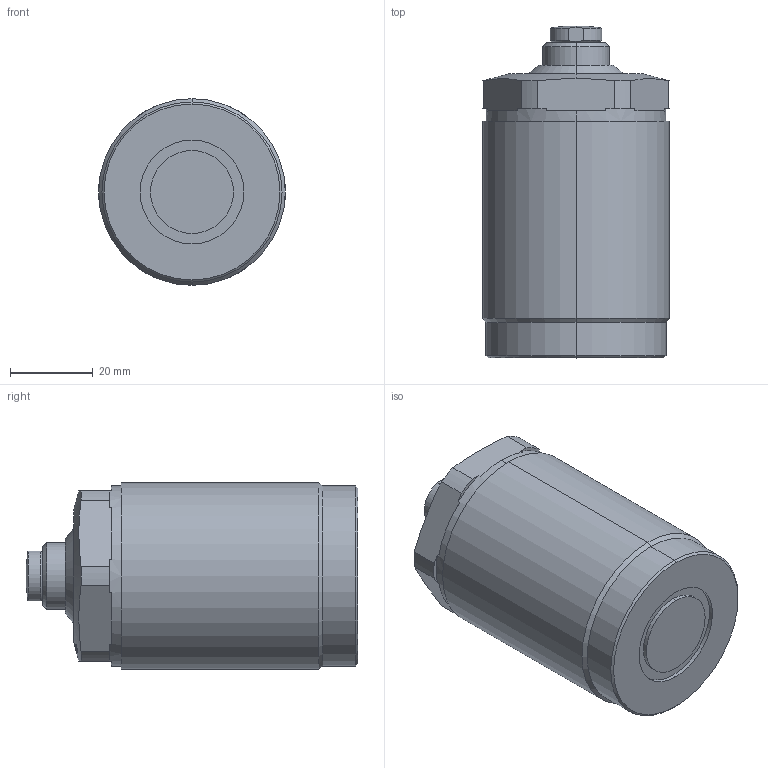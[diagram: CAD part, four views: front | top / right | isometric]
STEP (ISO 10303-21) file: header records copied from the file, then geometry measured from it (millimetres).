
FILE_DESCRIPTION (( 'STEP AP203' ), '1' );
FILE_NAME ('TW09-M453 Work support.STEP', '2022-07-09T17:16:04', ( '' ), ( '' ), 'SwSTEP 2.0', 'SolidWorks 2017', '' );
FILE_SCHEMA (( 'CONFIG_CONTROL_DESIGN' ));
Length unit declared in the file: millimetre
Products named in the file (4): TW09-M453 Work support; TW09-M453 part-1; TW09-M453 part-2; TW09-M453 part-3
Assembly tree (3 placements, depth 2):
  TW09-M453 Work support
    TW09-M453 part-1
    TW09-M453 part-2
    TW09-M453 part-3
Bounding box: 45 x 80 x 45 mm (x, y, z)
Volume: 114913.8 mm3; surface area: 16647 mm2
Topology: 3 solids, 3 shells, 266 faces, 689 edges, 452 vertices
Faces by surface type: plane 141, bspline 70, cylinder 30, cone 23, torus 2
Entity records: 12149 total; most frequent: CARTESIAN_POINT 5807, ORIENTED_EDGE 1370, DIRECTION 960, EDGE_CURVE 685, VERTEX_POINT 452, LINE 372, VECTOR 372, AXIS2_PLACEMENT_3D 294
